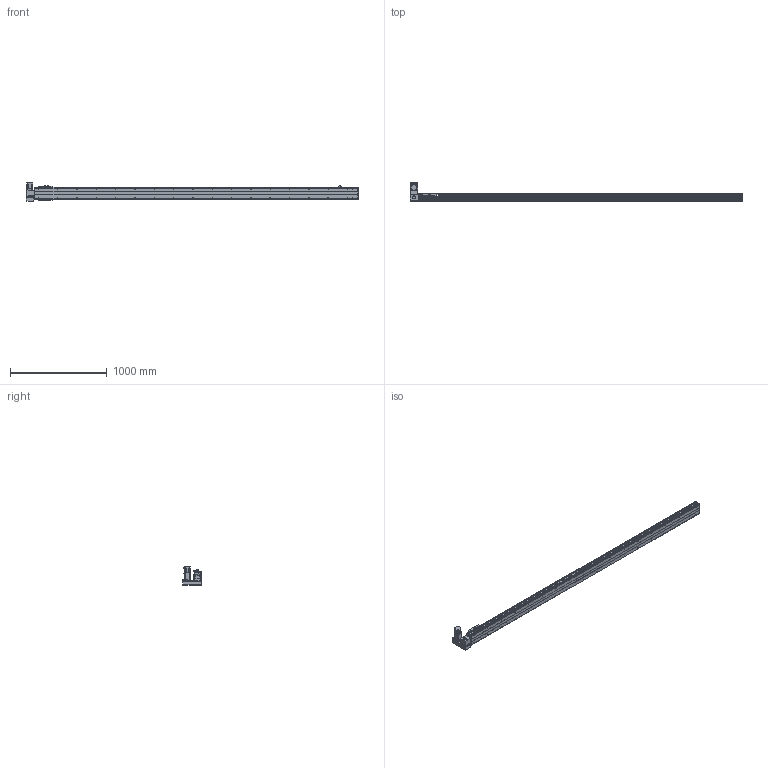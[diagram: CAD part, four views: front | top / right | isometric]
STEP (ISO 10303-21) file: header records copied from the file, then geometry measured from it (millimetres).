
FILE_DESCRIPTION(/* description */ ('STEP AP214'),/* implementation_level */ '2;1');
FILE_NAME(/* name */ 'PBS120-P40-S3050-LU-T40-C1-N(0)',/* time_stamp */ '2022-06-06T02:34:58+02:00',/* author */ ('License CC BY-ND 4.0'),/* organization */ ('CADENAS'),/* preprocessor_version */ 'ST-DEVELOPER v18.102',/* originating_system */ 'PARTsolutions',/* authorisation */ ' ');
FILE_SCHEMA (('AUTOMOTIVE_DESIGN {1 0 10303 214 3 1 1}'));
Length unit declared in the file: millimetre
Products named in the file (7): PBS120-P40-S3050-LU-T40-C1-N(0); PBS120_sensor; PBS120_plant; PBS120_sliser; T40-p1; PBS120T-LU_motors; PBS120-S3050()_body
Assembly tree (8 placements, depth 2):
  PBS120-P40-S3050-LU-T40-C1-N(0)
    PBS120_sensor  x3
    PBS120_plant
    PBS120_sliser
    T40-p1
    PBS120T-LU_motors
    PBS120-S3050()_body
Bounding box: 3436 x 198 x 189.7 mm (x, y, z)
Volume: 12633735.5 mm3; surface area: 2636138.2 mm2
Topology: 8 solids, 8 shells, 888 faces, 2256 edges, 1447 vertices
Faces by surface type: plane 569, cylinder 249, cone 68, torus 2
Full cylindrical faces by diameter (mm): 2.459 x6, 3.242 x4, 4 x2, 4.134 x4, 4.5 x10, 4.917 x40, 5.5 x11, 6 x2, 6.6 x1, 7 x2, 8.5 x4, 9 x4, 12 x1, 14 x1, 30 x2, 40 x1, 50 x2
Entity records: 22794 total; most frequent: DIRECTION 3980, CARTESIAN_POINT 3857, ORIENTED_EDGE 3622, EDGE_CURVE 1811, AXIS2_PLACEMENT_3D 1376, VERTEX_POINT 1253, LINE 1228, VECTOR 1228
